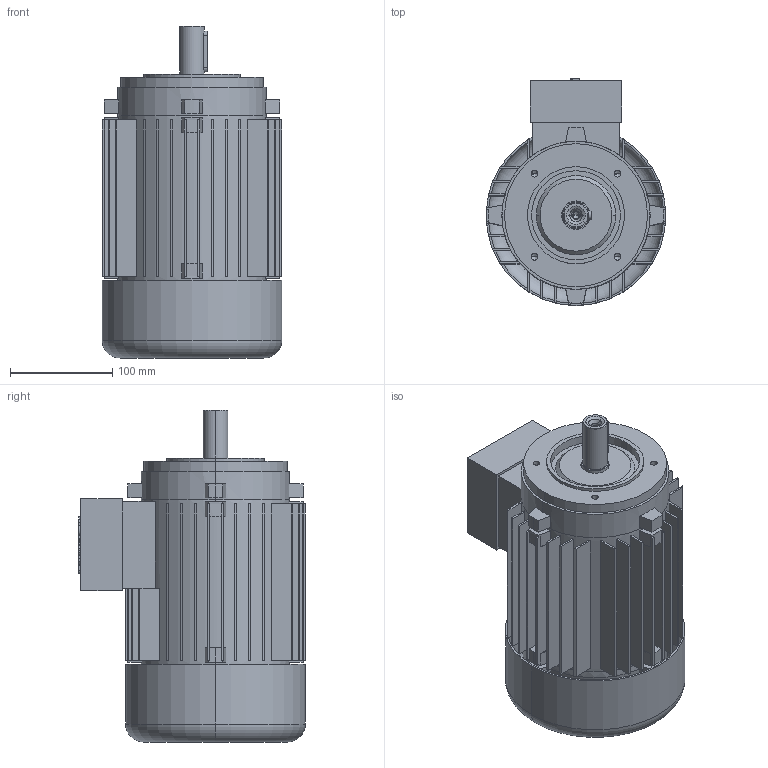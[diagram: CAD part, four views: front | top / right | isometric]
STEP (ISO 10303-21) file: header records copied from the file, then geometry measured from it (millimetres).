
FILE_DESCRIPTION (( 'STEP AP203' ), '1' );
FILE_NAME ('5AZ 90L B14_small STANDK.STEP', '2017-11-10T11:24:37', ( '' ), ( '' ), 'SwSTEP 2.0', 'SolidWorks 2017', '' );
FILE_SCHEMA (( 'CONFIG_CONTROL_DESIGN' ));
Length unit declared in the file: millimetre
Products named in the file (1): 5AZ 90L B14_small STANDK
Bounding box: 176 x 222 x 325 mm (x, y, z)
Volume: 1805671 mm3; surface area: 615481.1 mm2
Topology: 7 solids, 7 shells, 457 faces, 1159 edges, 759 vertices
Faces by surface type: plane 299, cylinder 119, cone 26, bspline 9, torus 4
Entity records: 13905 total; most frequent: CARTESIAN_POINT 2575, DIRECTION 2395, ORIENTED_EDGE 2298, EDGE_CURVE 1149, AXIS2_PLACEMENT_3D 827, VERTEX_POINT 759, VECTOR 741, LINE 741
